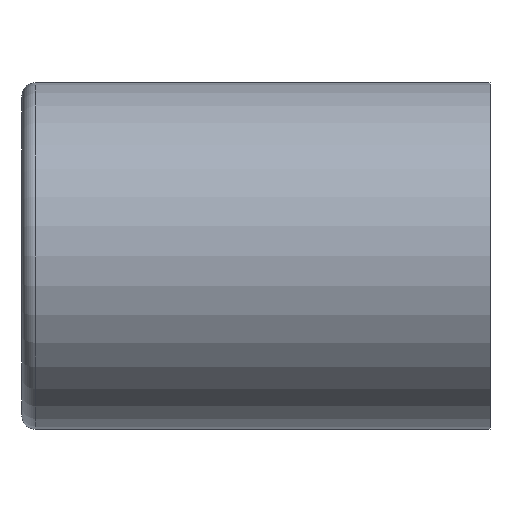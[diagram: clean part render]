
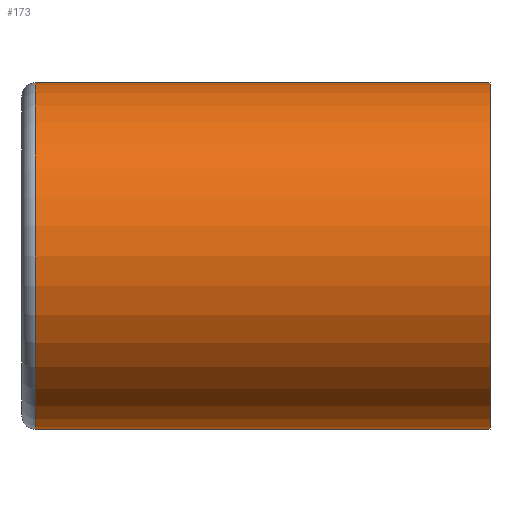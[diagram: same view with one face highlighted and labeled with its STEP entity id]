
A CAD part, front view. The second image highlights one B-rep face of the part: STEP entity #173.
In plain terms, the highlighted cylindrical face has radius 18.5 mm (diameter 37 mm), a partial arc.
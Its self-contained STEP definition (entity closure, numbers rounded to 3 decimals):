
#54 = VECTOR ( 'NONE', #1114, 1000. ) ;
#67 = FACE_OUTER_BOUND ( 'NONE', #1009, .T. ) ;
#70 = AXIS2_PLACEMENT_3D ( 'NONE', #1141, #1142, #1143 ) ;
#71 = CYLINDRICAL_SURFACE ( 'NONE', #70, 18.5 ) ;
#164 = EDGE_CURVE ( 'NONE', #831, #832, #1112, .T. ) ;
#173 = ADVANCED_FACE ( 'NONE', ( #67 ), #71, .T. ) ;
#227 = EDGE_CURVE ( 'NONE', #831, #834, #1461, .T. ) ;
#236 = EDGE_CURVE ( 'NONE', #833, #832, #1467, .T. ) ;
#382 = ORIENTED_EDGE ( 'NONE', *, *, #236, .T. ) ;
#383 = ORIENTED_EDGE ( 'NONE', *, *, #164, .F. ) ;
#384 = ORIENTED_EDGE ( 'NONE', *, *, #227, .T. ) ;
#385 = ORIENTED_EDGE ( 'NONE', *, *, #1442, .T. ) ;
#831 = VERTEX_POINT ( 'NONE', #2100 ) ;
#832 = VERTEX_POINT ( 'NONE', #2101 ) ;
#833 = VERTEX_POINT ( 'NONE', #2102 ) ;
#834 = VERTEX_POINT ( 'NONE', #2103 ) ;
#1009 = EDGE_LOOP ( 'NONE', ( #383, #384, #385, #382 ) ) ;
#1112 = LINE ( 'NONE', #1113, #54 ) ;
#1113 = CARTESIAN_POINT ( 'NONE',  ( 0., 0., -18.5 ) ) ;
#1114 = DIRECTION ( 'NONE',  ( -1., 0., 0. ) ) ;
#1141 = CARTESIAN_POINT ( 'NONE',  ( 0., 0., 0. ) ) ;
#1142 = DIRECTION ( 'NONE',  ( -1., 0., 0. ) ) ;
#1143 = DIRECTION ( 'NONE',  ( 0., 0., 1. ) ) ;
#1442 = EDGE_CURVE ( 'NONE', #834, #833, #3297, .T. ) ;
#1461 = CIRCLE ( 'NONE', #2749, 18.5 ) ;
#1467 = CIRCLE ( 'NONE', #2756, 18.5 ) ;
#1691 = CARTESIAN_POINT ( 'NONE',  ( 50., 0., 0. ) ) ;
#1698 = DIRECTION ( 'NONE',  ( -1., 0., 0. ) ) ;
#1699 = DIRECTION ( 'NONE',  ( 0., 0., 1. ) ) ;
#1724 = CARTESIAN_POINT ( 'NONE',  ( 1.4, 0., 0. ) ) ;
#1725 = DIRECTION ( 'NONE',  ( 1., 0., 0. ) ) ;
#1726 = DIRECTION ( 'NONE',  ( 0., 0., -1. ) ) ;
#2100 = CARTESIAN_POINT ( 'NONE',  ( 50., 0., -18.5 ) ) ;
#2101 = CARTESIAN_POINT ( 'NONE',  ( 1.4, 0., -18.5 ) ) ;
#2102 = CARTESIAN_POINT ( 'NONE',  ( 1.4, 0., 18.5 ) ) ;
#2103 = CARTESIAN_POINT ( 'NONE',  ( 50., 0., 18.5 ) ) ;
#2749 = AXIS2_PLACEMENT_3D ( 'NONE', #1691, #1698, #1699 ) ;
#2756 = AXIS2_PLACEMENT_3D ( 'NONE', #1724, #1725, #1726 ) ;
#3297 = LINE ( 'NONE', #3298, #3353 ) ;
#3298 = CARTESIAN_POINT ( 'NONE',  ( 0., 0., 18.5 ) ) ;
#3299 = DIRECTION ( 'NONE',  ( -1., 0., 0. ) ) ;
#3353 = VECTOR ( 'NONE', #3299, 1000. ) ;
